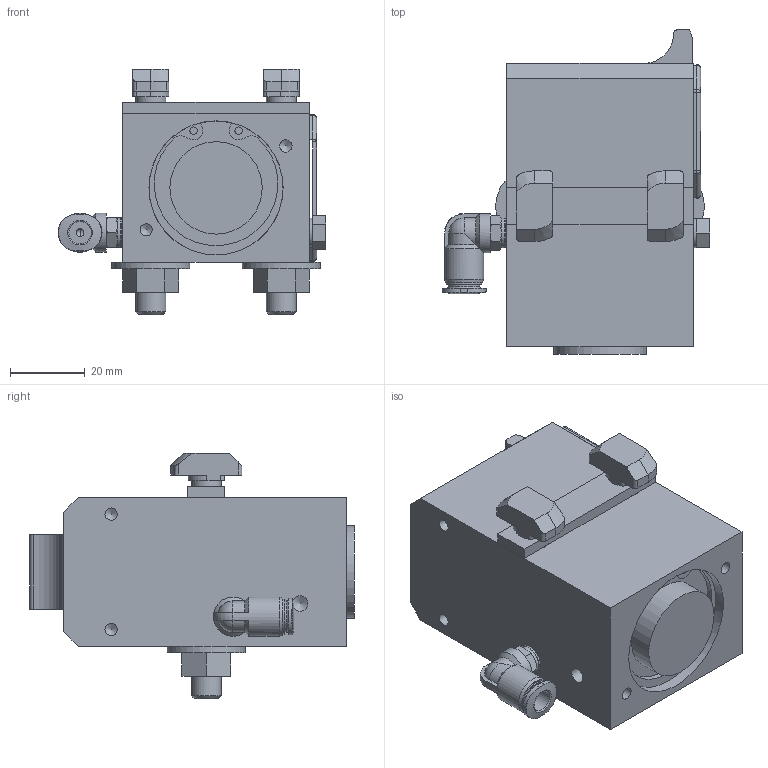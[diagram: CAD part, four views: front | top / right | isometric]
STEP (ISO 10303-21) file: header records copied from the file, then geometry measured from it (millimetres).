
FILE_DESCRIPTION (( 'STEP AP203' ), '1' );
FILE_NAME ('ASU-400-EW-09-100.STEP', '2016-12-21T11:21:15', ( '' ), ( '' ), 'SwSTEP 2.0', 'SolidWorks 2015', '' );
FILE_SCHEMA (( 'CONFIG_CONTROL_DESIGN' ));
Length unit declared in the file: metre
Products named in the file (1): ASU-400-EW-09-100
Bounding box: 71.9 x 87 x 65.8 mm (x, y, z)
Volume: 156435.7 mm3; surface area: 37332 mm2
Topology: 3 solids, 6 shells, 657 faces, 1702 edges, 1105 vertices
Faces by surface type: plane 311, cylinder 213, bspline 76, cone 41, sphere 12, torus 4
Full cylindrical faces by diameter (mm): 0.02 x2, 1 x3, 2 x2, 2.1 x2, 3.3 x6, 4.2 x4, 5 x1, 6 x1, 7.8 x1, 8 x6, 8.2 x4, 8.4 x1, 9.45 x1, 10.2 x6, 10.5 x2, 20 x1, 21 x2, 24.8 x1, 36 x1
Entity records: 25016 total; most frequent: CARTESIAN_POINT 9575, ORIENTED_EDGE 3200, DIRECTION 2997, EDGE_CURVE 1600, VERTEX_POINT 1081, AXIS2_PLACEMENT_3D 1033, LINE 931, VECTOR 931
